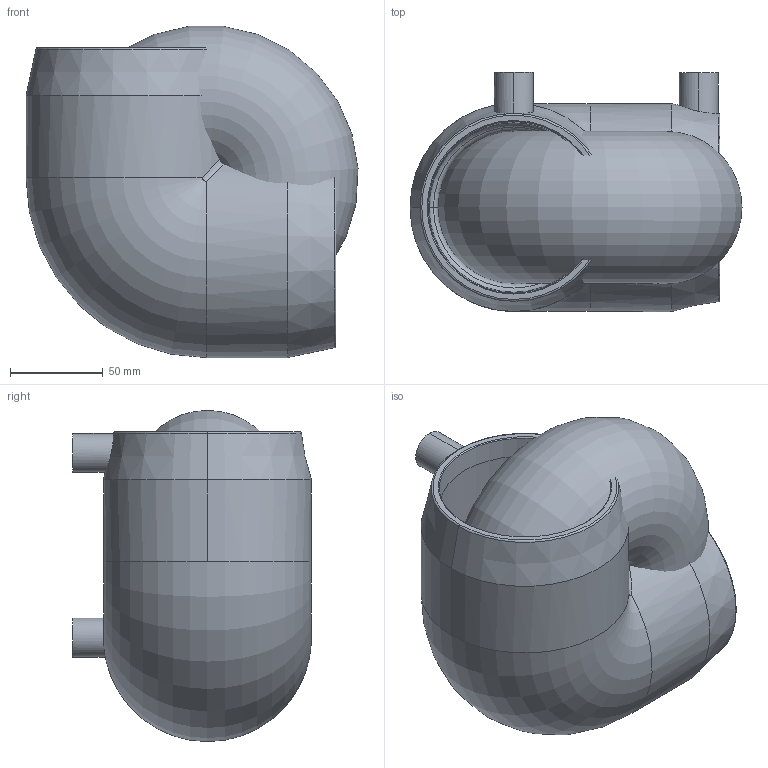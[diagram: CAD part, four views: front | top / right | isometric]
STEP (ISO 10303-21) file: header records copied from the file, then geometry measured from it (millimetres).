
FILE_DESCRIPTION (( 'STEP AP214' ), '1' );
FILE_NAME ('EBKHA90X90.STEP', '2018-09-20T11:19:58', ( '' ), ( '' ), 'SwSTEP 2.0', 'SolidWorks 2017', '' );
FILE_SCHEMA (( 'AUTOMOTIVE_DESIGN' ));
Length unit declared in the file: millimetre
Products named in the file (1): EBKHA90X90
Bounding box: 178.86 x 128.68 x 178.45 mm (x, y, z)
Volume: 627212.2 mm3; surface area: 201427.7 mm2
Topology: 1 solids, 1 shells, 71 faces, 156 edges, 89 vertices
Faces by surface type: cylinder 24, cone 20, torus 18, plane 8, bspline 1
Entity records: 2353 total; most frequent: CARTESIAN_POINT 646, DIRECTION 370, ORIENTED_EDGE 300, AXIS2_PLACEMENT_3D 163, EDGE_CURVE 150, CIRCLE 92, VERTEX_POINT 87, EDGE_LOOP 79
